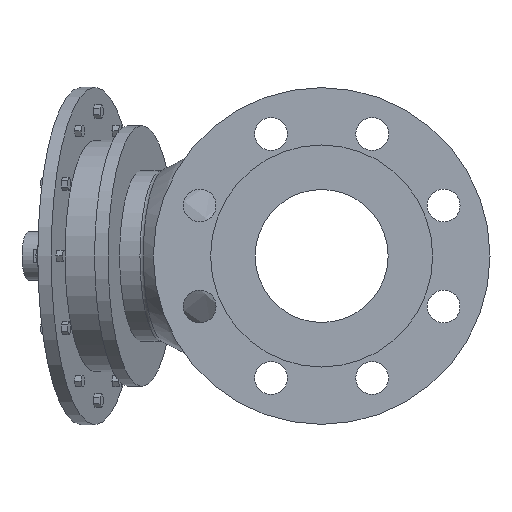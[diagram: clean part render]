
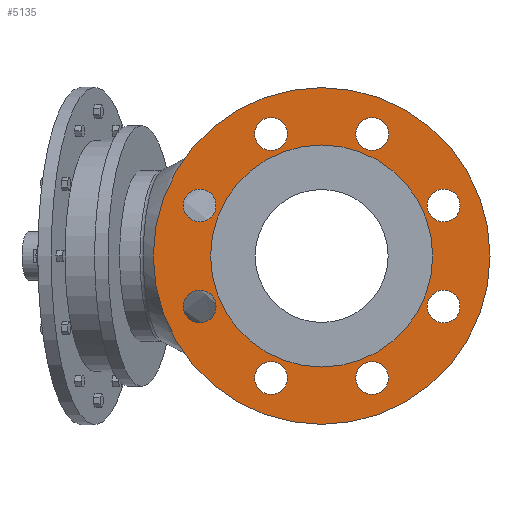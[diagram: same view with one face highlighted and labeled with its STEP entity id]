
A CAD part, left-side view. The second image highlights one B-rep face of the part: STEP entity #5135.
In plain terms, the highlighted planar face has unit normal (-1, 0, 0).
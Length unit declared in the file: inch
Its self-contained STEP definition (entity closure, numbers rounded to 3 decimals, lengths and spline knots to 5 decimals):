
#250=PLANE('',#5505);
#520=FACE_OUTER_BOUND('',#1013,.T.);
#528=CIRCLE('',#5165,0.355);
#530=CIRCLE('',#5168,0.355);
#532=CIRCLE('',#5171,0.355);
#534=CIRCLE('',#5174,0.355);
#536=CIRCLE('',#5177,0.355);
#538=CIRCLE('',#5180,0.355);
#540=CIRCLE('',#5183,0.355);
#542=CIRCLE('',#5186,0.355);
#625=CIRCLE('',#5503,2.4);
#626=CIRCLE('',#5504,2.4);
#627=CIRCLE('',#5506,3.64);
#628=CIRCLE('',#5507,3.64);
#682=FACE_BOUND('',#1014,.T.);
#683=FACE_BOUND('',#1015,.T.);
#684=FACE_BOUND('',#1016,.T.);
#685=FACE_BOUND('',#1017,.T.);
#686=FACE_BOUND('',#1018,.T.);
#687=FACE_BOUND('',#1019,.T.);
#688=FACE_BOUND('',#1020,.T.);
#689=FACE_BOUND('',#1021,.T.);
#690=FACE_BOUND('',#1022,.T.);
#1013=EDGE_LOOP('',(#4512,#4513));
#1014=EDGE_LOOP('',(#4514));
#1015=EDGE_LOOP('',(#4515));
#1016=EDGE_LOOP('',(#4516));
#1017=EDGE_LOOP('',(#4517));
#1018=EDGE_LOOP('',(#4518));
#1019=EDGE_LOOP('',(#4519));
#1020=EDGE_LOOP('',(#4520));
#1021=EDGE_LOOP('',(#4521));
#1022=EDGE_LOOP('',(#4522,#4523));
#2125=VERTEX_POINT('',#6817);
#2127=VERTEX_POINT('',#6823);
#2129=VERTEX_POINT('',#6829);
#2131=VERTEX_POINT('',#6835);
#2133=VERTEX_POINT('',#6841);
#2135=VERTEX_POINT('',#6847);
#2137=VERTEX_POINT('',#6853);
#2139=VERTEX_POINT('',#6859);
#2564=VERTEX_POINT('',#9330);
#2565=VERTEX_POINT('',#9331);
#2566=VERTEX_POINT('',#9336);
#2567=VERTEX_POINT('',#9337);
#2580=EDGE_CURVE('',#2125,#2125,#528,.T.);
#2583=EDGE_CURVE('',#2127,#2127,#530,.T.);
#2586=EDGE_CURVE('',#2129,#2129,#532,.T.);
#2589=EDGE_CURVE('',#2131,#2131,#534,.T.);
#2592=EDGE_CURVE('',#2133,#2133,#536,.T.);
#2595=EDGE_CURVE('',#2135,#2135,#538,.T.);
#2598=EDGE_CURVE('',#2137,#2137,#540,.T.);
#2601=EDGE_CURVE('',#2139,#2139,#542,.T.);
#3228=EDGE_CURVE('',#2564,#2565,#625,.T.);
#3229=EDGE_CURVE('',#2565,#2564,#626,.T.);
#3231=EDGE_CURVE('',#2566,#2567,#627,.T.);
#3232=EDGE_CURVE('',#2567,#2566,#628,.T.);
#4512=ORIENTED_EDGE('',*,*,#3231,.F.);
#4513=ORIENTED_EDGE('',*,*,#3232,.F.);
#4514=ORIENTED_EDGE('',*,*,#2580,.T.);
#4515=ORIENTED_EDGE('',*,*,#2583,.T.);
#4516=ORIENTED_EDGE('',*,*,#2586,.T.);
#4517=ORIENTED_EDGE('',*,*,#2589,.T.);
#4518=ORIENTED_EDGE('',*,*,#2592,.T.);
#4519=ORIENTED_EDGE('',*,*,#2595,.T.);
#4520=ORIENTED_EDGE('',*,*,#2598,.T.);
#4521=ORIENTED_EDGE('',*,*,#2601,.T.);
#4522=ORIENTED_EDGE('',*,*,#3228,.T.);
#4523=ORIENTED_EDGE('',*,*,#3229,.T.);
#5135=ADVANCED_FACE('',(#520,#682,#683,#684,#685,#686,#687,#688,#689,#690),
#250,.T.);
#5165=AXIS2_PLACEMENT_3D('',#6818,#5545,#5546);
#5168=AXIS2_PLACEMENT_3D('',#6824,#5552,#5553);
#5171=AXIS2_PLACEMENT_3D('',#6830,#5559,#5560);
#5174=AXIS2_PLACEMENT_3D('',#6836,#5566,#5567);
#5177=AXIS2_PLACEMENT_3D('',#6842,#5573,#5574);
#5180=AXIS2_PLACEMENT_3D('',#6848,#5580,#5581);
#5183=AXIS2_PLACEMENT_3D('',#6854,#5587,#5588);
#5186=AXIS2_PLACEMENT_3D('',#6860,#5594,#5595);
#5503=AXIS2_PLACEMENT_3D('',#9332,#6727,#6728);
#5504=AXIS2_PLACEMENT_3D('',#9333,#6729,#6730);
#5505=AXIS2_PLACEMENT_3D('',#9335,#6732,#6733);
#5506=AXIS2_PLACEMENT_3D('',#9338,#6734,#6735);
#5507=AXIS2_PLACEMENT_3D('',#9339,#6736,#6737);
#5545=DIRECTION('center_axis',(1.,0.,0.));
#5546=DIRECTION('ref_axis',(0.,0.707,0.707));
#5552=DIRECTION('center_axis',(1.,0.,0.));
#5553=DIRECTION('ref_axis',(0.,1.,0.));
#5559=DIRECTION('center_axis',(1.,0.,0.));
#5560=DIRECTION('ref_axis',(0.,0.707,-0.707));
#5566=DIRECTION('center_axis',(1.,0.,0.));
#5567=DIRECTION('ref_axis',(0.,0.,-1.));
#5573=DIRECTION('center_axis',(1.,0.,0.));
#5574=DIRECTION('ref_axis',(0.,-0.707,-0.707));
#5580=DIRECTION('center_axis',(1.,0.,0.));
#5581=DIRECTION('ref_axis',(0.,-1.,0.));
#5587=DIRECTION('center_axis',(1.,0.,0.));
#5588=DIRECTION('ref_axis',(0.,-0.707,0.707));
#5594=DIRECTION('center_axis',(1.,0.,0.));
#5595=DIRECTION('ref_axis',(0.,0.,1.));
#6727=DIRECTION('center_axis',(1.,0.,0.));
#6728=DIRECTION('ref_axis',(0.,0.,-1.));
#6729=DIRECTION('center_axis',(1.,0.,0.));
#6730=DIRECTION('ref_axis',(0.,0.,-1.));
#6732=DIRECTION('center_axis',(-1.,0.,0.));
#6733=DIRECTION('ref_axis',(0.,0.,1.));
#6734=DIRECTION('center_axis',(1.,0.,0.));
#6735=DIRECTION('ref_axis',(0.,0.,-1.));
#6736=DIRECTION('center_axis',(1.,0.,0.));
#6737=DIRECTION('ref_axis',(0.,0.,-1.));
#6817=CARTESIAN_POINT('',(-4.29,0.84154,-2.8887));
#6818=CARTESIAN_POINT('Origin',(-4.29,1.09256,-2.63768));
#6823=CARTESIAN_POINT('',(-4.29,-1.44756,-2.63768));
#6824=CARTESIAN_POINT('Origin',(-4.29,-1.09256,-2.63768));
#6829=CARTESIAN_POINT('',(-4.29,-2.8887,-0.84154));
#6830=CARTESIAN_POINT('Origin',(-4.29,-2.63768,-1.09256));
#6835=CARTESIAN_POINT('',(-4.29,-2.63768,1.44756));
#6836=CARTESIAN_POINT('Origin',(-4.29,-2.63768,1.09256));
#6841=CARTESIAN_POINT('',(-4.29,-0.84154,2.8887));
#6842=CARTESIAN_POINT('Origin',(-4.29,-1.09256,2.63768));
#6847=CARTESIAN_POINT('',(-4.29,1.44756,2.63768));
#6848=CARTESIAN_POINT('Origin',(-4.29,1.09256,2.63768));
#6853=CARTESIAN_POINT('',(-4.29,2.8887,0.84154));
#6854=CARTESIAN_POINT('Origin',(-4.29,2.63768,1.09256));
#6859=CARTESIAN_POINT('',(-4.29,2.63768,-1.44756));
#6860=CARTESIAN_POINT('Origin',(-4.29,2.63768,-1.09256));
#9330=CARTESIAN_POINT('',(-4.29,2.4,0.));
#9331=CARTESIAN_POINT('',(-4.29,-2.4,0.));
#9332=CARTESIAN_POINT('Origin',(-4.29,0.,0.));
#9333=CARTESIAN_POINT('Origin',(-4.29,0.,0.));
#9335=CARTESIAN_POINT('Origin',(-4.29,3.64,0.));
#9336=CARTESIAN_POINT('',(-4.29,3.64,0.));
#9337=CARTESIAN_POINT('',(-4.29,-3.64,0.));
#9338=CARTESIAN_POINT('Origin',(-4.29,0.,0.));
#9339=CARTESIAN_POINT('Origin',(-4.29,0.,0.));
